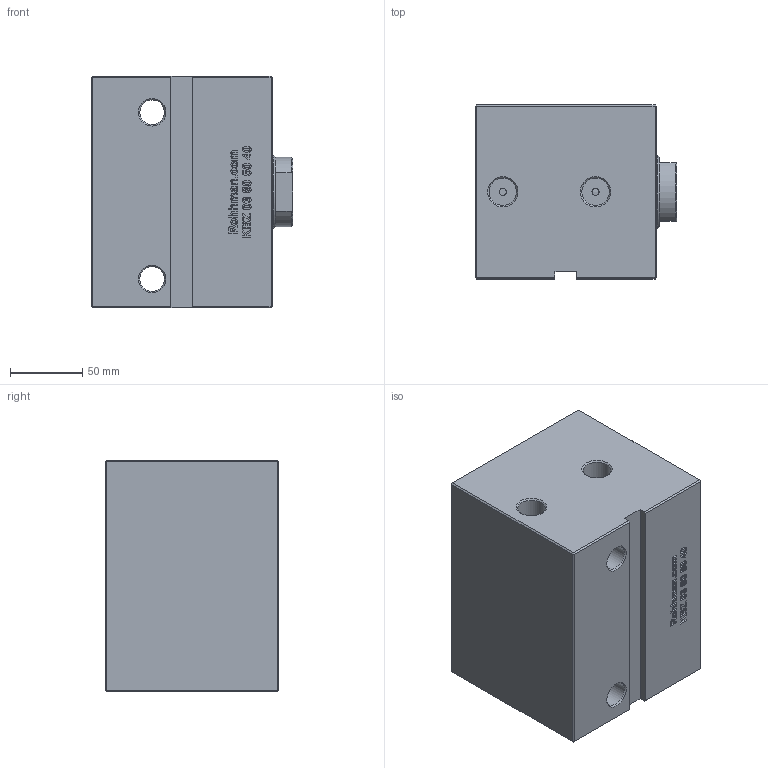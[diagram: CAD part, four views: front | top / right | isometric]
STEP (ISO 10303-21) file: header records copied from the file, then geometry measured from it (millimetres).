
FILE_DESCRIPTION(/* description */ (''),/* implementation_level */ '2;1');
FILE_NAME(/* name */ 'KBZ_03_80_50_40_WEB.step',/* time_stamp */ '2023-08-26T11:50:20+03:00',/* author */ (''),/* organization */ (''),/* preprocessor_version */ 'ST-DEVELOPER v20',/* originating_system */ 'Autodesk Translation Framework v12.9.0.99',/* authorisation */ '');
FILE_SCHEMA (('AUTOMOTIVE_DESIGN { 1 0 10303 214 3 1 1 }'));
Length unit declared in the file: millimetre
Products named in the file (6): KBZ_03_80_0_20_MONTAJ; KAPAK; KAPAK_1; Ø50 MİL; GÖVDE_YENİ; GÖVDE
Assembly tree (5 placements, depth 3):
  KBZ_03_80_0_20_MONTAJ
    KAPAK
      KAPAK_1
    Ø50 MİL
    GÖVDE_YENİ
      GÖVDE
Bounding box: 139 x 120 x 160 mm (x, y, z)
Volume: 2089665.5 mm3; surface area: 190515.6 mm2
Topology: 3 solids, 3 shells, 587 faces, 1573 edges, 1035 vertices
Faces by surface type: bspline 343, plane 208, cone 18, cylinder 18
Full cylindrical faces by diameter (mm): 5 x4, 17 x2, 18.901 x2, 26.491 x1, 50 x1, 50.5 x1, 80 x1, 85 x2, 90 x2
Entity records: 21573 total; most frequent: CARTESIAN_POINT 9091, ORIENTED_EDGE 3146, EDGE_CURVE 1573, DIRECTION 1447, VERTEX_POINT 1035, LINE 819, VECTOR 819, B_SPLINE_CURVE_WITH_KNOTS 691
